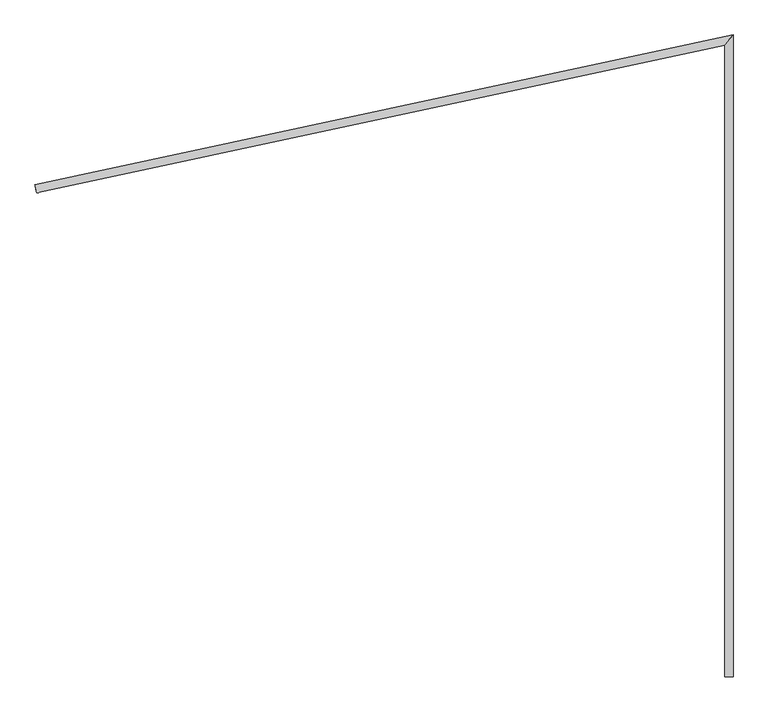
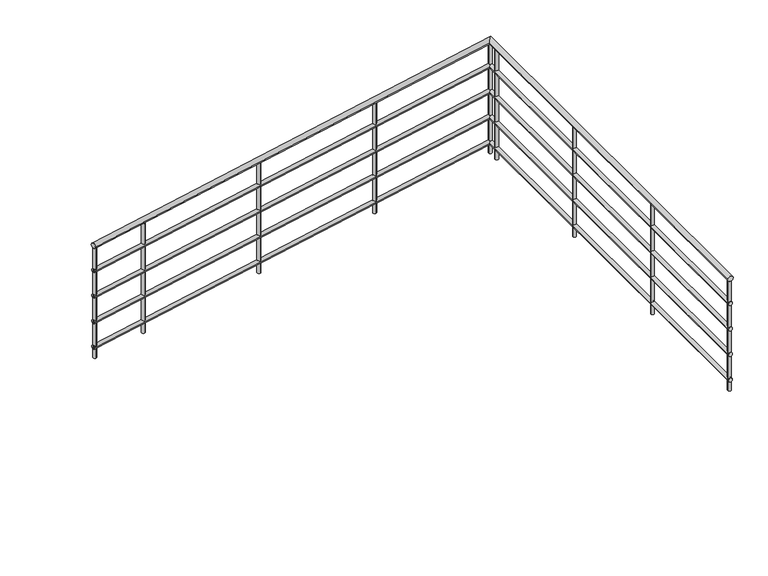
"""IFC4 building model written with IfcOpenShell, lengths in millimetres: railing geometry, 900mm 管."""

from ifc_helpers import new_model, si_unit, point, frame, frame_2d, origin, origin_with_axes, place, context, project, spatial, circle_curve, ellipse_curve, trimmed, segment, composite_curve, outline, extrude, source, transform, mapped, element, save
from ifc_brep_helpers import plane_surface, cylinder_surface, advanced_brep


def railing_19308ab3(model_context):
    return source(origin(), model_context, "Body", "SolidModel", [
        advanced_brep(
        [(4607.9445117, 1215.2881354, 880.0), (4647.9445117, 1215.2881354, 880.0), (4607.9445117, 4271.4730715, 880.0), (4647.9445117, 4320.9525603, 880.0), (1277.3686583, 3557.7782458, 880.0), (1268.9874948, 3596.8903424, 880.0)],
        [
            (0, 1, circle_curve(frame((4627.9445117, 1215.2881354, 880.0), z_axis=(0.0, -1.0, 0.0), x_axis=(1.0, 0.0, 0.0)), 20.0)),
            (1, 0, circle_curve(frame((4627.9445117, 1215.2881354, 880.0), z_axis=(0.0, -1.0, 0.0), x_axis=(1.0, 0.0, 0.0)), 20.0)),
            (0, 2),
            (2, 3, ellipse_curve(frame((4627.9445117, 4296.2128159, 880.0), z_axis=(0.7776660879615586, -0.6286775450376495, 0.0), x_axis=(-0.6286775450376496, -0.7776660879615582, 0.0)), 31.8128111, 20.0)),
            (3, 1),
            (3, 2, ellipse_curve(frame((4627.9445117, 4296.2128159, 880.0), z_axis=(0.7776660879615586, -0.6286775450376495, 0.0), x_axis=(-0.6286775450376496, -0.7776660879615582, 0.0)), 31.8128111, 20.0)),
            (4, 5, circle_curve(frame((1273.1780766, 3577.3342941, 880.0), z_axis=(-0.9778024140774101, -0.2095290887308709, 0.0), x_axis=(-0.2095290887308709, 0.9778024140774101, 0.0)), 20.0)),
            (5, 4, circle_curve(frame((1273.1780766, 3577.3342941, 880.0), z_axis=(-0.9778024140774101, -0.2095290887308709, 0.0), x_axis=(-0.2095290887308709, 0.9778024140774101, 0.0)), 20.0)),
            (2, 4),
            (5, 3),
        ],
        [
            plane_surface(frame((4627.9445117, 1215.2881354, 900.0), z_axis=(0.0, -1.0, 0.0), x_axis=(0.0, 0.0, 1.0))),
            cylinder_surface(frame((4627.9445117, 1215.2881354, 880.0), z_axis=(0.0, -1.0, 0.0), x_axis=(1.0, 0.0, 0.0)), 20.0),
            plane_surface(frame((1273.1780766, 3577.3342941, 900.0), z_axis=(-0.9778024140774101, -0.20952908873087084, 0.0), x_axis=(0.20952908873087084, -0.9778024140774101, 0.0))),
            cylinder_surface(frame((4627.9445117, 4296.2128159, 880.0), z_axis=(0.9778024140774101, 0.2095290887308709, 0.0), x_axis=(-0.2095290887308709, 0.9778024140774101, 0.0)), 20.0),
        ],
        [
            (0, [[1, 2]]),
            (1, [[-1, 3, 4, 5]]),
            (1, [[-2, -5, 6, -3]]),
            (2, [[7, 8]]),
            (3, [[-4, 9, -8, 10]]),
            (3, [[-6, -10, -7, -9]]),
        ],
    ),
        advanced_brep(
        [(4612.9445117, 1215.2881354, 685.0), (4642.9445117, 1215.2881354, 685.0), (4612.9445117, 4277.6580076, 685.0), (4642.9445117, 4314.7676242, 685.0), (1276.3210129, 3562.6672579, 685.0), (1270.0351402, 3592.0013303, 685.0)],
        [
            (0, 1, circle_curve(frame((4627.9445117, 1215.2881354, 685.0), z_axis=(0.0, -1.0, 0.0), x_axis=(1.0, 0.0, 0.0)), 15.0)),
            (1, 0, circle_curve(frame((4627.9445117, 1215.2881354, 685.0), z_axis=(0.0, -1.0, 0.0), x_axis=(1.0, 0.0, 0.0)), 15.0)),
            (0, 2),
            (2, 3, ellipse_curve(frame((4627.9445117, 4296.2128159, 685.0), z_axis=(0.7776660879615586, -0.6286775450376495, 0.0), x_axis=(-0.6286775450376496, -0.7776660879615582, 0.0)), 23.8596083, 15.0)),
            (3, 1),
            (3, 2, ellipse_curve(frame((4627.9445117, 4296.2128159, 685.0), z_axis=(0.7776660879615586, -0.6286775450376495, 0.0), x_axis=(-0.6286775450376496, -0.7776660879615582, 0.0)), 23.8596083, 15.0)),
            (4, 5, circle_curve(frame((1273.1780766, 3577.3342941, 685.0), z_axis=(-0.9778024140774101, -0.2095290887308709, 0.0), x_axis=(-0.2095290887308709, 0.9778024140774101, 0.0)), 15.0)),
            (5, 4, circle_curve(frame((1273.1780766, 3577.3342941, 685.0), z_axis=(-0.9778024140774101, -0.2095290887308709, 0.0), x_axis=(-0.2095290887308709, 0.9778024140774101, 0.0)), 15.0)),
            (2, 4),
            (5, 3),
        ],
        [
            plane_surface(frame((4627.9445117, 1215.2881354, 700.0), z_axis=(0.0, -1.0, 0.0), x_axis=(0.0, 0.0, 1.0))),
            cylinder_surface(frame((4627.9445117, 1215.2881354, 685.0), z_axis=(0.0, -1.0, 0.0), x_axis=(1.0, 0.0, 0.0)), 15.0),
            plane_surface(frame((1273.1780766, 3577.3342941, 700.0), z_axis=(-0.9778024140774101, -0.20952908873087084, 0.0), x_axis=(0.20952908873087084, -0.9778024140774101, 0.0))),
            cylinder_surface(frame((4627.9445117, 4296.2128159, 685.0), z_axis=(0.9778024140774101, 0.2095290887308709, 0.0), x_axis=(-0.2095290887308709, 0.9778024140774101, 0.0)), 15.0),
        ],
        [
            (0, [[1, 2]]),
            (1, [[-1, 3, 4, 5]]),
            (1, [[-2, -5, 6, -3]]),
            (2, [[7, 8]]),
            (3, [[-4, 9, -8, 10]]),
            (3, [[-6, -10, -7, -9]]),
        ],
    ),
        advanced_brep(
        [(4612.9445117, 1215.2881354, 485.0), (4642.9445117, 1215.2881354, 485.0), (4612.9445117, 4277.6580076, 485.0), (4642.9445117, 4314.7676242, 485.0), (1276.3210129, 3562.6672579, 485.0), (1270.0351402, 3592.0013303, 485.0)],
        [
            (0, 1, circle_curve(frame((4627.9445117, 1215.2881354, 485.0), z_axis=(0.0, -1.0, 0.0), x_axis=(1.0, 0.0, 0.0)), 15.0)),
            (1, 0, circle_curve(frame((4627.9445117, 1215.2881354, 485.0), z_axis=(0.0, -1.0, 0.0), x_axis=(1.0, 0.0, 0.0)), 15.0)),
            (0, 2),
            (2, 3, ellipse_curve(frame((4627.9445117, 4296.2128159, 485.0), z_axis=(0.7776660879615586, -0.6286775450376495, 0.0), x_axis=(-0.6286775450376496, -0.7776660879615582, 0.0)), 23.8596083, 15.0)),
            (3, 1),
            (3, 2, ellipse_curve(frame((4627.9445117, 4296.2128159, 485.0), z_axis=(0.7776660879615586, -0.6286775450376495, 0.0), x_axis=(-0.6286775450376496, -0.7776660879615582, 0.0)), 23.8596083, 15.0)),
            (4, 5, circle_curve(frame((1273.1780766, 3577.3342941, 485.0), z_axis=(-0.9778024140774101, -0.2095290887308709, 0.0), x_axis=(-0.2095290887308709, 0.9778024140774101, 0.0)), 15.0)),
            (5, 4, circle_curve(frame((1273.1780766, 3577.3342941, 485.0), z_axis=(-0.9778024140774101, -0.2095290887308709, 0.0), x_axis=(-0.2095290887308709, 0.9778024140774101, 0.0)), 15.0)),
            (2, 4),
            (5, 3),
        ],
        [
            plane_surface(frame((4627.9445117, 1215.2881354, 500.0), z_axis=(0.0, -1.0, 0.0), x_axis=(0.0, 0.0, 1.0))),
            cylinder_surface(frame((4627.9445117, 1215.2881354, 485.0), z_axis=(0.0, -1.0, 0.0), x_axis=(1.0, 0.0, 0.0)), 15.0),
            plane_surface(frame((1273.1780766, 3577.3342941, 500.0), z_axis=(-0.9778024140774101, -0.20952908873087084, 0.0), x_axis=(0.20952908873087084, -0.9778024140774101, 0.0))),
            cylinder_surface(frame((4627.9445117, 4296.2128159, 485.0), z_axis=(0.9778024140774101, 0.2095290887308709, 0.0), x_axis=(-0.2095290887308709, 0.9778024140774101, 0.0)), 15.0),
        ],
        [
            (0, [[1, 2]]),
            (1, [[-1, 3, 4, 5]]),
            (1, [[-2, -5, 6, -3]]),
            (2, [[7, 8]]),
            (3, [[-4, 9, -8, 10]]),
            (3, [[-6, -10, -7, -9]]),
        ],
    ),
        advanced_brep(
        [(4612.9445117, 1215.2881354, 285.0), (4642.9445117, 1215.2881354, 285.0), (4612.9445117, 4277.6580076, 285.0), (4642.9445117, 4314.7676242, 285.0), (1276.3210129, 3562.6672579, 285.0), (1270.0351402, 3592.0013303, 285.0)],
        [
            (0, 1, circle_curve(frame((4627.9445117, 1215.2881354, 285.0), z_axis=(0.0, -1.0, 0.0), x_axis=(1.0, 0.0, 0.0)), 15.0)),
            (1, 0, circle_curve(frame((4627.9445117, 1215.2881354, 285.0), z_axis=(0.0, -1.0, 0.0), x_axis=(1.0, 0.0, 0.0)), 15.0)),
            (0, 2),
            (2, 3, ellipse_curve(frame((4627.9445117, 4296.2128159, 285.0), z_axis=(0.7776660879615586, -0.6286775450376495, 0.0), x_axis=(-0.6286775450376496, -0.7776660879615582, 0.0)), 23.8596083, 15.0)),
            (3, 1),
            (3, 2, ellipse_curve(frame((4627.9445117, 4296.2128159, 285.0), z_axis=(0.7776660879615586, -0.6286775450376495, 0.0), x_axis=(-0.6286775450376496, -0.7776660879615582, 0.0)), 23.8596083, 15.0)),
            (4, 5, circle_curve(frame((1273.1780766, 3577.3342941, 285.0), z_axis=(-0.9778024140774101, -0.2095290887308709, 0.0), x_axis=(-0.2095290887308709, 0.9778024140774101, 0.0)), 15.0)),
            (5, 4, circle_curve(frame((1273.1780766, 3577.3342941, 285.0), z_axis=(-0.9778024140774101, -0.2095290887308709, 0.0), x_axis=(-0.2095290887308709, 0.9778024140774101, 0.0)), 15.0)),
            (2, 4),
            (5, 3),
        ],
        [
            plane_surface(frame((4627.9445117, 1215.2881354, 300.0), z_axis=(0.0, -1.0, 0.0), x_axis=(0.0, 0.0, 1.0))),
            cylinder_surface(frame((4627.9445117, 1215.2881354, 285.0), z_axis=(0.0, -1.0, 0.0), x_axis=(1.0, 0.0, 0.0)), 15.0),
            plane_surface(frame((1273.1780766, 3577.3342941, 300.0), z_axis=(-0.9778024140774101, -0.20952908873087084, 0.0), x_axis=(0.20952908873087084, -0.9778024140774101, 0.0))),
            cylinder_surface(frame((4627.9445117, 4296.2128159, 285.0), z_axis=(0.9778024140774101, 0.2095290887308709, 0.0), x_axis=(-0.2095290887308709, 0.9778024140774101, 0.0)), 15.0),
        ],
        [
            (0, [[1, 2]]),
            (1, [[-1, 3, 4, 5]]),
            (1, [[-2, -5, 6, -3]]),
            (2, [[7, 8]]),
            (3, [[-4, 9, -8, 10]]),
            (3, [[-6, -10, -7, -9]]),
        ],
    ),
        advanced_brep(
        [(4612.9445117, 1215.2881354, 85.0), (4642.9445117, 1215.2881354, 85.0), (4612.9445117, 4277.6580076, 85.0), (4642.9445117, 4314.7676242, 85.0), (1276.3210129, 3562.6672579, 85.0), (1270.0351402, 3592.0013303, 85.0)],
        [
            (0, 1, circle_curve(frame((4627.9445117, 1215.2881354, 85.0), z_axis=(0.0, -1.0, 0.0), x_axis=(1.0, 0.0, 0.0)), 15.0)),
            (1, 0, circle_curve(frame((4627.9445117, 1215.2881354, 85.0), z_axis=(0.0, -1.0, 0.0), x_axis=(1.0, 0.0, 0.0)), 15.0)),
            (0, 2),
            (2, 3, ellipse_curve(frame((4627.9445117, 4296.2128159, 85.0), z_axis=(0.7776660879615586, -0.6286775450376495, 0.0), x_axis=(-0.6286775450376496, -0.7776660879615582, 0.0)), 23.8596083, 15.0)),
            (3, 1),
            (3, 2, ellipse_curve(frame((4627.9445117, 4296.2128159, 85.0), z_axis=(0.7776660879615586, -0.6286775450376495, 0.0), x_axis=(-0.6286775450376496, -0.7776660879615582, 0.0)), 23.8596083, 15.0)),
            (4, 5, circle_curve(frame((1273.1780766, 3577.3342941, 85.0), z_axis=(-0.9778024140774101, -0.2095290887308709, 0.0), x_axis=(-0.2095290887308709, 0.9778024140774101, 0.0)), 15.0)),
            (5, 4, circle_curve(frame((1273.1780766, 3577.3342941, 85.0), z_axis=(-0.9778024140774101, -0.2095290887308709, 0.0), x_axis=(-0.2095290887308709, 0.9778024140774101, 0.0)), 15.0)),
            (2, 4),
            (5, 3),
        ],
        [
            plane_surface(frame((4627.9445117, 1215.2881354, 100.0), z_axis=(0.0, -1.0, 0.0), x_axis=(0.0, 0.0, 1.0))),
            cylinder_surface(frame((4627.9445117, 1215.2881354, 85.0), z_axis=(0.0, -1.0, 0.0), x_axis=(1.0, 0.0, 0.0)), 15.0),
            plane_surface(frame((1273.1780766, 3577.3342941, 100.0), z_axis=(-0.9778024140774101, -0.20952908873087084, 0.0), x_axis=(0.20952908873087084, -0.9778024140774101, 0.0))),
            cylinder_surface(frame((4627.9445117, 4296.2128159, 85.0), z_axis=(0.9778024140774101, 0.2095290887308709, 0.0), x_axis=(-0.2095290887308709, 0.9778024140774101, 0.0)), 15.0),
        ],
        [
            (0, [[1, 2]]),
            (1, [[-1, 3, 4, 5]]),
            (1, [[-2, -5, 6, -3]]),
            (2, [[7, 8]]),
            (3, [[-4, 9, -8, 10]]),
            (3, [[-6, -10, -7, -9]]),
        ],
    ),
        extrude(outline(composite_curve([segment(trimmed(circle_curve(frame_2d((1694.5372694, 3667.6255497)), 12.5), [point((1697.156383, 3655.4030195))], [point((1691.9181558, 3679.8480799))], False, "CARTESIAN"), True, "CONTINUOUS"), segment(trimmed(circle_curve(frame_2d((1694.5372694, 3667.6255497)), 12.5), [point((1691.9181558, 3679.8480799))], [point((1697.156383, 3655.4030195))], False, "CARTESIAN"), True, "CONTINUOUS")], self_intersect=False)), origin_with_axes(), (0.0, 0.0, 1.0), 860.0),
        extrude(outline(composite_curve([segment(trimmed(circle_curve(frame_2d((2672.3396835, 3877.1546385)), 12.5), [point((2674.9587971, 3864.9321083))], [point((2669.7205699, 3889.3771686))], False, "CARTESIAN"), True, "CONTINUOUS"), segment(trimmed(circle_curve(frame_2d((2672.3396835, 3877.1546385)), 12.5), [point((2669.7205699, 3889.3771686))], [point((2674.9587971, 3864.9321083))], False, "CARTESIAN"), True, "CONTINUOUS")], self_intersect=False)), origin_with_axes(), (0.0, 0.0, 1.0), 860.0),
        extrude(outline(composite_curve([segment(trimmed(circle_curve(frame_2d((3650.1420976, 4086.6837272)), 12.5), [point((3652.7612112, 4074.461197))], [point((3647.522984, 4098.9062574))], False, "CARTESIAN"), True, "CONTINUOUS"), segment(trimmed(circle_curve(frame_2d((3650.1420976, 4086.6837272)), 12.5), [point((3647.522984, 4098.9062574))], [point((3652.7612112, 4074.461197))], False, "CARTESIAN"), True, "CONTINUOUS")], self_intersect=False)), origin_with_axes(), (0.0, 0.0, 1.0), 860.0),
        extrude(outline(composite_curve([segment(trimmed(circle_curve(frame_2d((4627.9445117, 4215.2881354)), 12.5), [point((4615.4445117, 4215.2881354))], [point((4640.4445117, 4215.2881354))], False, "CARTESIAN"), True, "CONTINUOUS"), segment(trimmed(circle_curve(frame_2d((4627.9445117, 4215.2881354)), 12.5), [point((4640.4445117, 4215.2881354))], [point((4615.4445117, 4215.2881354))], False, "CARTESIAN"), True, "CONTINUOUS")], self_intersect=False)), origin_with_axes(), (0.0, 0.0, 1.0), 860.0),
        extrude(outline(composite_curve([segment(trimmed(circle_curve(frame_2d((4627.9445117, 3215.2881354)), 12.5), [point((4615.4445117, 3215.2881354))], [point((4640.4445117, 3215.2881354))], False, "CARTESIAN"), True, "CONTINUOUS"), segment(trimmed(circle_curve(frame_2d((4627.9445117, 3215.2881354)), 12.5), [point((4640.4445117, 3215.2881354))], [point((4615.4445117, 3215.2881354))], False, "CARTESIAN"), True, "CONTINUOUS")], self_intersect=False)), origin_with_axes(), (0.0, 0.0, 1.0), 860.0),
        extrude(outline(composite_curve([segment(trimmed(circle_curve(frame_2d((4627.9445117, 2215.2881354)), 12.5), [point((4615.4445117, 2215.2881354))], [point((4640.4445117, 2215.2881354))], False, "CARTESIAN"), True, "CONTINUOUS"), segment(trimmed(circle_curve(frame_2d((4627.9445117, 2215.2881354)), 12.5), [point((4640.4445117, 2215.2881354))], [point((4615.4445117, 2215.2881354))], False, "CARTESIAN"), True, "CONTINUOUS")], self_intersect=False)), origin_with_axes(), (0.0, 0.0, 1.0), 860.0),
        extrude(outline(composite_curve([segment(trimmed(circle_curve(frame_2d((4627.9445117, 4296.2128159)), 12.5), [point((4615.4445117, 4296.2128159))], [point((4640.4445117, 4296.2128159))], False, "CARTESIAN"), True, "CONTINUOUS"), segment(trimmed(circle_curve(frame_2d((4627.9445117, 4296.2128159)), 12.5), [point((4640.4445117, 4296.2128159))], [point((4615.4445117, 4296.2128159))], False, "CARTESIAN"), True, "CONTINUOUS")], self_intersect=False)), origin_with_axes(), (0.0, 0.0, 1.0), 860.0),
        extrude(outline(composite_curve([segment(trimmed(circle_curve(frame_2d((1285.4006067, 3579.9534077)), 12.5), [point((1288.0197204, 3567.7308775))], [point((1282.7814931, 3592.1759379))], False, "CARTESIAN"), True, "CONTINUOUS"), segment(trimmed(circle_curve(frame_2d((1285.4006067, 3579.9534077)), 12.5), [point((1282.7814931, 3592.1759379))], [point((1288.0197204, 3567.7308775))], False, "CARTESIAN"), True, "CONTINUOUS")], self_intersect=False)), origin_with_axes(), (0.0, 0.0, 1.0), 860.0),
        extrude(outline(composite_curve([segment(trimmed(circle_curve(frame_2d((4627.9445117, 1227.7881354)), 12.5), [point((4615.4445117, 1227.7881354))], [point((4640.4445117, 1227.7881354))], False, "CARTESIAN"), True, "CONTINUOUS"), segment(trimmed(circle_curve(frame_2d((4627.9445117, 1227.7881354)), 12.5), [point((4640.4445117, 1227.7881354))], [point((4615.4445117, 1227.7881354))], False, "CARTESIAN"), True, "CONTINUOUS")], self_intersect=False)), origin_with_axes(), (0.0, 0.0, 1.0), 860.0),
    ])


if __name__ == "__main__":
    model = new_model("IFC4")
    model_context = context("Model", 3, world=origin())
    ifc_project = project(units=[si_unit("LENGTHUNIT", "METRE", prefix="MILLI")], contexts=[model_context])
    site = spatial("IfcSite", under=ifc_project)
    building = spatial("IfcBuilding", under=site)
    placement = place(None, origin())
    railing_shape = railing_19308ab3(model_context)
    element("IfcRailing", 1, ObjectType="900mm 管", at=placement, inside=building, context=model_context, shape_type="MappedRepresentation", body=[
        mapped(railing_shape, transform((0.0, 0.0, 0.0), x_axis=(1.0, 0.0, 0.0), y_axis=(0.0, 1.0, 0.0), z_axis=(0.0, 0.0, 1.0))),
    ])
    save(model, "model.ifc")
